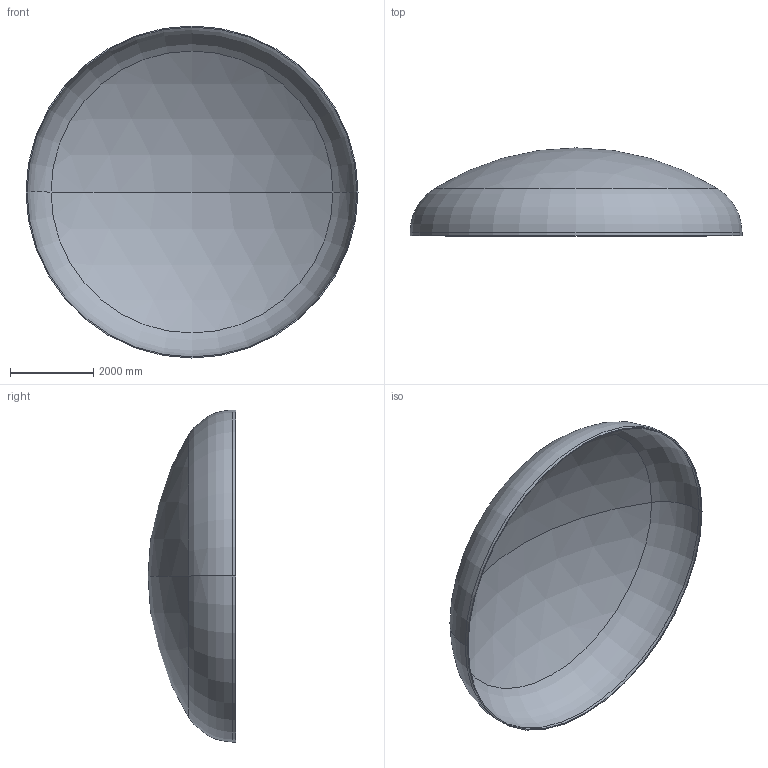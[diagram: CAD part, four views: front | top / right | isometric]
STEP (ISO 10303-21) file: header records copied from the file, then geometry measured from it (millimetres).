
FILE_DESCRIPTION (( 'STEP AP203' ), '1' );
FILE_NAME ('DIN 28013 Korbbogenform_-_Boden DIN 28013 - 8000 x 75 - I - s=25.step', '2016-07-04T10:59:45', ( '' ), ( '' ), 'SwSTEP 2.0', 'SolidWorks 2013', '' );
FILE_SCHEMA (( 'CONFIG_CONTROL_DESIGN' ));
Length unit declared in the file: millimetre
Products named in the file (1): DIN 28013 Korbbogenform_-_Boden DIN 28013 - 8000 x 75 - I - s=25
Bounding box: 8000 x 2118.92 x 8000 mm (x, y, z)
Volume: 1779795612 mm3; surface area: 143011255 mm2
Topology: 1 solids, 1 shells, 13 faces, 24 edges, 14 vertices
Faces by surface type: torus 4, cylinder 4, sphere 4, plane 1
Entity records: 407 total; most frequent: DIRECTION 72, CARTESIAN_POINT 52, ORIENTED_EDGE 48, AXIS2_PLACEMENT_3D 34, EDGE_CURVE 24, CIRCLE 20, EDGE_LOOP 14, VERTEX_POINT 14
